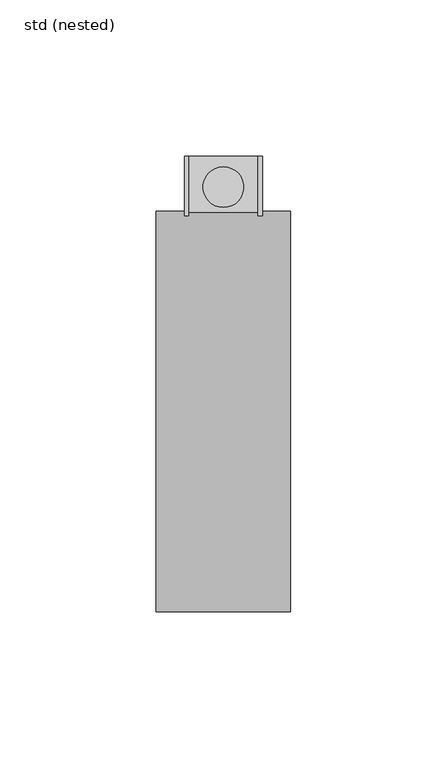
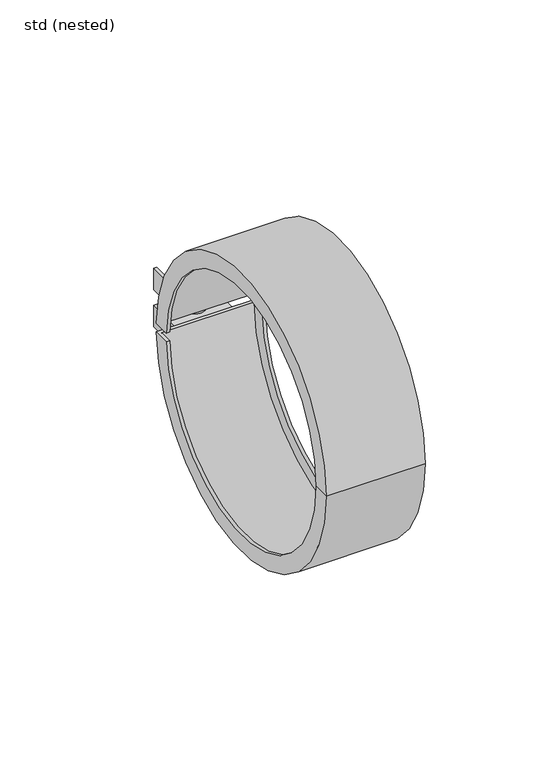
"""IFC4 building model written with IfcOpenShell, lengths in millimetres: pipe fitting geometry, ZZZ_do not use_PIF_ST_UN_ACO pipe socket clamp_ACO : std (nested)."""

from ifc_helpers import new_model, si_unit, point, frame, frame_2d, origin, place, context, project, spatial, polyline, circle_curve, trimmed, segment, composite_curve, outline, extrude, source, transform, mapped, element, save
from ifc_brep_helpers import plane_surface, cylinder_surface, revolved_surface, advanced_brep


def std_nested_c6c84c1b(model_context):
    return source(origin(), model_context, "Body", "SolidModel", [
        advanced_brep(
        [(-21.5, -64.0, 0.0), (-21.5, -56.5, 0.0), (-21.5, 56.4645907, -2.0), (-21.5, 63.9687424, -2.0), (-21.5, 63.9687424, 2.0), (-21.5, 56.4645907, 2.0), (-20.0, -56.5, 0.0), (-20.0, 56.4645907, -2.0), (-20.0, 56.4645907, 2.0), (-20.0, -62.5, 0.0), (-20.0, 62.4679918, -2.0), (-20.0, 62.4679918, 2.0), (20.0, -62.5, 0.0), (20.0, 62.4679918, -2.0), (20.0, 62.4679918, 2.0), (20.0, -56.5, 0.0), (20.0, 56.4645907, -2.0), (20.0, 56.4645907, 2.0), (21.5, -56.5, 0.0), (21.5, 56.4645907, -2.0), (21.5, 56.4645907, 2.0), (21.5, -64.0, 0.0), (21.5, 63.9687424, -2.0), (21.5, 63.9687424, 2.0)],
        [
            (0, 1),
            (1, 2, circle_curve(frame((-21.5, 0.0, 0.0), z_axis=(1.0, 0.0, 0.0), x_axis=(0.0, 1.0, 0.0)), 56.5)),
            (2, 3),
            (3, 0, circle_curve(frame((-21.5, 0.0, 0.0), z_axis=(-1.0, 0.0, 0.0), x_axis=(0.0, 1.0, 0.0)), 64.0)),
            (0, 4, circle_curve(frame((-21.5, 0.0, 0.0), z_axis=(-1.0, 0.0, 0.0), x_axis=(0.0, 1.0, 0.0)), 64.0)),
            (4, 5),
            (5, 1, circle_curve(frame((-21.5, 0.0, 0.0), z_axis=(1.0, 0.0, 0.0), x_axis=(0.0, 1.0, 0.0)), 56.5)),
            (1, 6),
            (6, 7, circle_curve(frame((-20.0, 0.0, 0.0), z_axis=(1.0, 0.0, 0.0), x_axis=(0.0, 1.0, 0.0)), 56.5)),
            (7, 2),
            (5, 8),
            (8, 6, circle_curve(frame((-20.0, 0.0, 0.0), z_axis=(1.0, 0.0, 0.0), x_axis=(0.0, 1.0, 0.0)), 56.5)),
            (6, 9),
            (9, 10, circle_curve(frame((-20.0, 0.0, 0.0), z_axis=(1.0, 0.0, 0.0), x_axis=(0.0, 1.0, 0.0)), 62.5)),
            (10, 7),
            (8, 11),
            (11, 9, circle_curve(frame((-20.0, 0.0, 0.0), z_axis=(1.0, 0.0, 0.0), x_axis=(0.0, 1.0, 0.0)), 62.5)),
            (9, 12),
            (12, 13, circle_curve(frame((20.0, 0.0, 0.0), z_axis=(1.0, 0.0, 0.0), x_axis=(0.0, 1.0, 0.0)), 62.5)),
            (13, 10),
            (11, 14),
            (14, 12, circle_curve(frame((20.0, 0.0, 0.0), z_axis=(1.0, 0.0, 0.0), x_axis=(0.0, 1.0, 0.0)), 62.5)),
            (12, 15),
            (15, 16, circle_curve(frame((20.0, 0.0, 0.0), z_axis=(1.0, 0.0, 0.0), x_axis=(0.0, 1.0, 0.0)), 56.5)),
            (16, 13),
            (14, 17),
            (17, 15, circle_curve(frame((20.0, 0.0, 0.0), z_axis=(1.0, 0.0, 0.0), x_axis=(0.0, 1.0, 0.0)), 56.5)),
            (15, 18),
            (18, 19, circle_curve(frame((21.5, 0.0, 0.0), z_axis=(1.0, 0.0, 0.0), x_axis=(0.0, 1.0, 0.0)), 56.5)),
            (19, 16),
            (17, 20),
            (20, 18, circle_curve(frame((21.5, 0.0, 0.0), z_axis=(1.0, 0.0, 0.0), x_axis=(0.0, 1.0, 0.0)), 56.5)),
            (18, 21),
            (21, 22, circle_curve(frame((21.5, 0.0, 0.0), z_axis=(1.0, 0.0, 0.0), x_axis=(0.0, 1.0, 0.0)), 64.0)),
            (22, 19),
            (20, 23),
            (23, 21, circle_curve(frame((21.5, 0.0, 0.0), z_axis=(1.0, 0.0, 0.0), x_axis=(0.0, 1.0, 0.0)), 64.0)),
            (21, 0),
            (3, 22),
            (23, 4),
        ],
        [
            plane_surface(frame((-21.5, 0.0, 0.0), z_axis=(-1.0, 0.0, 0.0), x_axis=(0.0, 1.0, 0.0))),
            revolved_surface(polyline([(-21.5, 56.5, 0.0), (-20.0, 56.5, 0.0)]), (-50.0, 0.0, 0.0), (-1.0, 0.0, 0.0)),
            plane_surface(frame((-20.0, 0.0, 0.0), z_axis=(1.0, 0.0, 0.0), x_axis=(0.0, 1.0, 0.0))),
            revolved_surface(polyline([(-20.0, 62.5, 0.0), (20.0, 62.5, 0.0)]), (-50.0, 0.0, 0.0), (-1.0, 0.0, 0.0)),
            plane_surface(frame((20.0, 0.0, 0.0), z_axis=(-1.0, 0.0, 0.0), x_axis=(0.0, 1.0, 0.0))),
            revolved_surface(polyline([(20.0, 56.5, 0.0), (21.5, 56.5, 0.0)]), (-50.0, 0.0, 0.0), (-1.0, 0.0, 0.0)),
            plane_surface(frame((21.5, 0.0, 0.0), z_axis=(1.0, 0.0, 0.0), x_axis=(0.0, 1.0, 0.0))),
            cylinder_surface(frame((-50.0, 0.0, 0.0), z_axis=(-1.0, 0.0, 0.0), x_axis=(0.0, 1.0, 0.0)), 64.0),
            plane_surface(frame((21.5, 65.0, 2.0), z_axis=(0.0, 0.0, -1.0), x_axis=(-1.0, 0.0, 0.0))),
            plane_surface(frame((21.5, 0.0, -2.0), z_axis=(0.0, 0.0, 1.0), x_axis=(-1.0, 0.0, 0.0))),
        ],
        [
            (0, [[1, 2, 3, 4]]),
            (0, [[-1, 5, 6, 7]]),
            (1, [[8, 9, 10, -2]]),
            (1, [[-8, -7, 11, 12]]),
            (2, [[13, 14, 15, -9]]),
            (2, [[-13, -12, 16, 17]]),
            (3, [[18, 19, 20, -14]]),
            (3, [[-18, -17, 21, 22]]),
            (4, [[23, 24, 25, -19]]),
            (4, [[-23, -22, 26, 27]]),
            (5, [[28, 29, 30, -24]]),
            (5, [[-28, -27, 31, 32]]),
            (6, [[33, 34, 35, -29]]),
            (6, [[-33, -32, 36, 37]]),
            (7, [[38, -4, 39, -34]]),
            (7, [[-38, -37, 40, -5]]),
            (8, [[-6, -40, -36, -31, -26, -21, -16, -11]]),
            (9, [[-3, -10, -15, -20, -25, -30, -35, -39]]),
        ],
    ),
        advanced_brep(
        [(-12.5, 81.5, -3.5), (12.5, 81.5, -3.5), (12.5, 81.5, -13.5), (11.123617, 81.5, -13.5), (11.123617, 81.5, -5.5), (-11.123617, 81.5, -5.5), (-11.123617, 81.5, -13.5), (-12.5, 81.5, -13.5), (-12.5, 62.401923, -3.5), (12.5, 62.401923, -3.5), (12.5, 61.0245852, -13.5), (11.123617, 61.0245852, -13.5), (11.123617, 62.2575297, -5.5), (-11.123617, 62.2575297, -5.5), (-11.123617, 61.0245852, -13.5), (-12.5, 61.0245852, -13.5)],
        [
            (0, 1),
            (1, 2),
            (2, 3),
            (3, 4),
            (4, 5),
            (5, 6),
            (6, 7),
            (7, 0),
            (0, 8),
            (8, 9),
            (9, 1),
            (9, 10, circle_curve(frame((12.5, 0.0, 0.0), z_axis=(-1.0, 0.0, 0.0), x_axis=(0.0, 1.0, 0.0)), 62.5)),
            (10, 2),
            (10, 11),
            (11, 3),
            (11, 12, circle_curve(frame((11.123617, 0.0, 0.0), z_axis=(1.0, 0.0, 0.0), x_axis=(0.0, 1.0, 0.0)), 62.5)),
            (12, 4),
            (12, 13),
            (13, 5),
            (13, 14, circle_curve(frame((-11.123617, 0.0, 0.0), z_axis=(-1.0, 0.0, 0.0), x_axis=(0.0, 1.0, 0.0)), 62.5)),
            (14, 6),
            (14, 15),
            (15, 7),
            (15, 8, circle_curve(frame((-12.5, 0.0, 0.0), z_axis=(1.0, 0.0, 0.0), x_axis=(0.0, 1.0, 0.0)), 62.5)),
        ],
        [
            plane_surface(frame((0.0, 81.5, -3.5), z_axis=(0.0, 1.0, 0.0), x_axis=(0.0, 0.0, 1.0))),
            plane_surface(frame((12.5, 0.0, -3.5), z_axis=(0.0, 0.0, 1.0), x_axis=(0.0, 1.0, 0.0))),
            plane_surface(frame((12.5, 0.0, -13.5), z_axis=(1.0, 0.0, 0.0), x_axis=(0.0, 1.0, 0.0))),
            plane_surface(frame((11.123617, 0.0, -13.5), z_axis=(0.0, 0.0, -1.0), x_axis=(0.0, 1.0, 0.0))),
            plane_surface(frame((11.123617, 0.0, -5.5), z_axis=(-1.0, 0.0, 0.0), x_axis=(0.0, 1.0, 0.0))),
            plane_surface(frame((-11.123617, 0.0, -5.5), z_axis=(0.0, 0.0, -1.0), x_axis=(0.0, 1.0, 0.0))),
            plane_surface(frame((-11.123617, 0.0, -13.5), z_axis=(1.0, 0.0, 0.0), x_axis=(0.0, 1.0, 0.0))),
            plane_surface(frame((-12.5, 0.0, -13.5), z_axis=(0.0, 0.0, -1.0), x_axis=(0.0, 1.0, 0.0))),
            plane_surface(frame((-12.5, 0.0, -3.5), z_axis=(-1.0, 0.0, 0.0), x_axis=(0.0, 1.0, 0.0))),
            revolved_surface(polyline([(-12.5, 62.5, 0.0), (12.5, 62.5, 0.0)]), (-59.75, 0.0, 0.0), (-1.0, 0.0, 0.0)),
        ],
        [
            (0, [[1, 2, 3, 4, 5, 6, 7, 8]]),
            (1, [[-1, 9, 10, 11]]),
            (2, [[-2, -11, 12, 13]]),
            (3, [[-3, -13, 14, 15]]),
            (4, [[-4, -15, 16, 17]]),
            (5, [[-5, -17, 18, 19]]),
            (6, [[-6, -19, 20, 21]]),
            (7, [[-7, -21, 22, 23]]),
            (8, [[-8, -23, 24, -9]]),
            (9, [[-10, -24, -22, -20, -18, -16, -14, -12]]),
        ],
    ),
        advanced_brep(
        [(-12.5, 81.5, 3.5), (-12.5, 81.5, 13.5), (-11.123617, 81.5, 13.5), (-11.123617, 81.5, 5.5), (11.123617, 81.5, 5.5), (11.123617, 81.5, 13.5), (12.5, 81.5, 13.5), (12.5, 81.5, 3.5), (12.5, 62.401923, 3.5), (-12.5, 62.401923, 3.5), (12.5, 61.0245852, 13.5), (11.123617, 61.0245852, 13.5), (11.123617, 62.2575297, 5.5), (-11.123617, 62.2575297, 5.5), (-11.123617, 61.0245852, 13.5), (-12.5, 61.0245852, 13.5)],
        [
            (0, 1),
            (1, 2),
            (2, 3),
            (3, 4),
            (4, 5),
            (5, 6),
            (6, 7),
            (7, 0),
            (7, 8),
            (8, 9),
            (9, 0),
            (6, 10),
            (10, 8, circle_curve(frame((12.5, 0.0, 0.0), z_axis=(-1.0, 0.0, 0.0), x_axis=(0.0, 1.0, 0.0)), 62.5)),
            (5, 11),
            (11, 10),
            (4, 12),
            (12, 11, circle_curve(frame((11.123617, 0.0, 0.0), z_axis=(1.0, 0.0, 0.0), x_axis=(0.0, 1.0, 0.0)), 62.5)),
            (3, 13),
            (13, 12),
            (2, 14),
            (14, 13, circle_curve(frame((-11.123617, 0.0, 0.0), z_axis=(-1.0, 0.0, 0.0), x_axis=(0.0, 1.0, 0.0)), 62.5)),
            (1, 15),
            (15, 14),
            (9, 15, circle_curve(frame((-12.5, 0.0, 0.0), z_axis=(1.0, 0.0, 0.0), x_axis=(0.0, 1.0, 0.0)), 62.5)),
        ],
        [
            plane_surface(frame((0.0, 81.5, 3.5), z_axis=(0.0, 1.0, 0.0), x_axis=(0.0, 0.0, 1.0))),
            plane_surface(frame((-12.5, 0.0, 3.5), z_axis=(0.0, 0.0, -1.0), x_axis=(0.0, 1.0, 0.0))),
            plane_surface(frame((12.5, 0.0, 3.5), z_axis=(1.0, 0.0, 0.0), x_axis=(0.0, 1.0, 0.0))),
            plane_surface(frame((12.5, 0.0, 13.5), z_axis=(0.0, 0.0, 1.0), x_axis=(0.0, 1.0, 0.0))),
            plane_surface(frame((11.123617, 0.0, 13.5), z_axis=(-1.0, 0.0, 0.0), x_axis=(0.0, 1.0, 0.0))),
            plane_surface(frame((11.123617, 0.0, 5.5), z_axis=(0.0, 0.0, 1.0), x_axis=(0.0, 1.0, 0.0))),
            plane_surface(frame((-11.123617, 0.0, 5.5), z_axis=(1.0, 0.0, 0.0), x_axis=(0.0, 1.0, 0.0))),
            plane_surface(frame((-11.123617, 0.0, 13.5), z_axis=(0.0, 0.0, 1.0), x_axis=(0.0, 1.0, 0.0))),
            plane_surface(frame((-12.5, 0.0, 13.5), z_axis=(-1.0, 0.0, 0.0), x_axis=(0.0, 1.0, 0.0))),
            revolved_surface(polyline([(-12.5, 62.5, 0.0), (12.5, 62.5, 0.0)]), (-59.75, 0.0, 0.0), (-1.0, 0.0, 0.0)),
        ],
        [
            (0, [[1, 2, 3, 4, 5, 6, 7, 8]]),
            (1, [[-8, 9, 10, 11]]),
            (2, [[-7, 12, 13, -9]]),
            (3, [[-6, 14, 15, -12]]),
            (4, [[-5, 16, 17, -14]]),
            (5, [[-4, 18, 19, -16]]),
            (6, [[-3, 20, 21, -18]]),
            (7, [[-2, 22, 23, -20]]),
            (8, [[-1, -11, 24, -22]]),
            (9, [[-10, -13, -15, -17, -19, -21, -23, -24]]),
        ],
    ),
        extrude(outline(composite_curve([segment(trimmed(circle_curve(frame_2d((0.0, 71.7)), 6.5), [point((0.0, 65.2))], [point((0.0, 78.2))], False, "CARTESIAN"), True, "CONTINUOUS"), segment(trimmed(circle_curve(frame_2d((0.0, 71.7)), 6.5), [point((0.0, 78.2))], [point((0.0, 65.2))], False, "CARTESIAN"), True, "CONTINUOUS")], self_intersect=False)), frame((0.0, 0.0, 5.5), z_axis=(0.0, 0.0, 1.0), x_axis=(1.0, 0.0, 0.0)), (0.0, 0.0, 1.0), 8.0),
        extrude(outline(composite_curve([segment(trimmed(circle_curve(frame_2d((0.0, 71.7)), 4.0), [point((-4.0, 71.7))], [point((4.0, 71.7))], False, "CARTESIAN"), True, "CONTINUOUS"), segment(trimmed(circle_curve(frame_2d((0.0, 71.7)), 4.0), [point((4.0, 71.7))], [point((-4.0, 71.7))], False, "CARTESIAN"), True, "CONTINUOUS")], self_intersect=False)), frame((0.0, 0.0, -19.5), z_axis=(0.0, 0.0, 1.0), x_axis=(1.0, 0.0, 0.0)), (0.0, 0.0, 1.0), 25.0),
    ])


if __name__ == "__main__":
    model = new_model("IFC4")
    model_context = context("Model", 3, world=origin())
    ifc_project = project(units=[si_unit("LENGTHUNIT", "METRE", prefix="MILLI")], contexts=[model_context])
    site = spatial("IfcSite", under=ifc_project)
    building = spatial("IfcBuilding", under=site)
    placement = place(None, origin())
    std_nested_shape = std_nested_c6c84c1b(model_context)
    element("IfcPipeFitting", 1, ObjectType="ZZZ_do not use_PIF_ST_UN_ACO pipe socket clamp_ACO : std (nested)", at=placement, inside=building, context=model_context, shape_type="MappedRepresentation", body=[
        mapped(std_nested_shape, transform((0.0, 0.0, 0.0), x_axis=(1.0, 0.0, 0.0), y_axis=(0.0, 1.0, 0.0), z_axis=(0.0, 0.0, 1.0))),
    ])
    save(model, "model.ifc")
